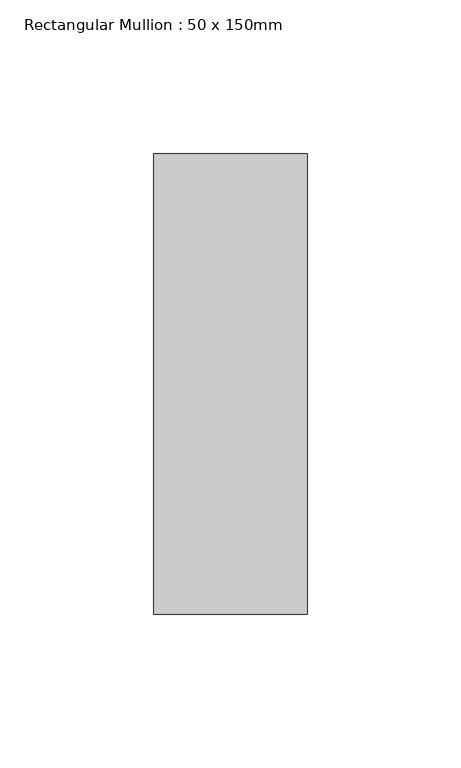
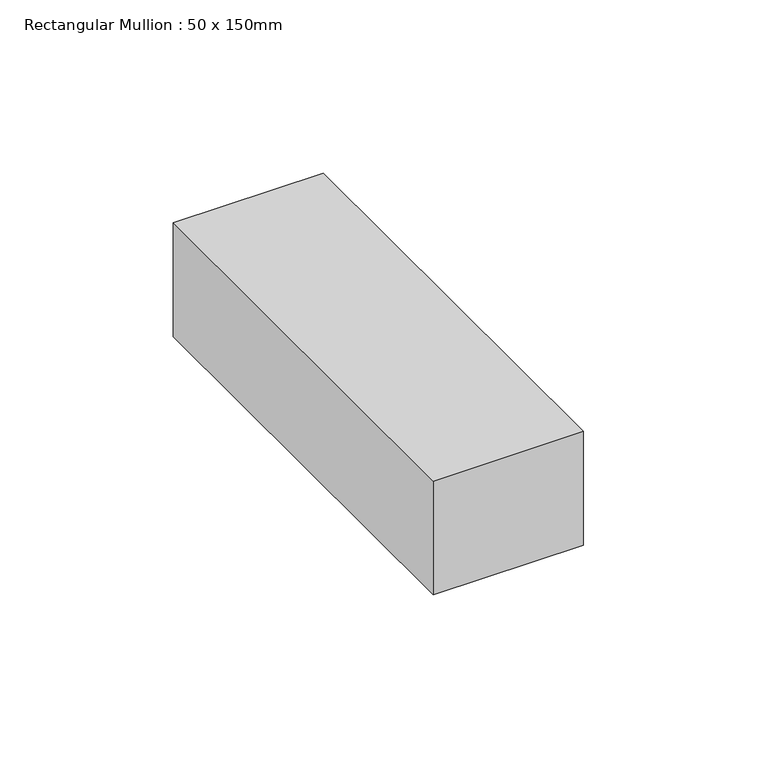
"""IFC4 building model written with IfcOpenShell, lengths in millimetres: member geometry, Rectangular Mullion : 50 x 150mm."""

from ifc_helpers import new_model, si_unit, frame, origin, place, context, project, spatial, polyline, outline, extrude, source, transform, mapped, element, save


def rectangular_mullion_50_x_150mm_b03f34d7(model_context):
    return source(origin(), model_context, "Body", "SweptSolid", [
        extrude(outline(polyline([(0.0, 75.0), (0.0, -75.0), (-50.0, -75.0), (-50.0, 75.0), (0.0, 75.0)])), frame((0.0, 0.0, -40.0), z_axis=(0.0, 0.0, 1.0), x_axis=(1.0, 0.0, 0.0)), (0.0, 0.0, 1.0), 40.0),
    ])


if __name__ == "__main__":
    model = new_model("IFC4")
    model_context = context("Model", 3, world=origin())
    ifc_project = project(units=[si_unit("LENGTHUNIT", "METRE", prefix="MILLI")], contexts=[model_context])
    site = spatial("IfcSite", under=ifc_project)
    building = spatial("IfcBuilding", under=site)
    placement = place(None, origin())
    rectangular_mullion_50_x_150mm_shape = rectangular_mullion_50_x_150mm_b03f34d7(model_context)
    element("IfcMember", 1, ObjectType="Rectangular Mullion : 50 x 150mm", at=placement, inside=building, context=model_context, shape_type="MappedRepresentation", body=[
        mapped(rectangular_mullion_50_x_150mm_shape, transform((0.0, 0.0, 0.0), x_axis=(1.0, 0.0, 0.0), y_axis=(0.0, 1.0, 0.0), z_axis=(0.0, 0.0, 1.0))),
    ])
    save(model, "model.ifc")
